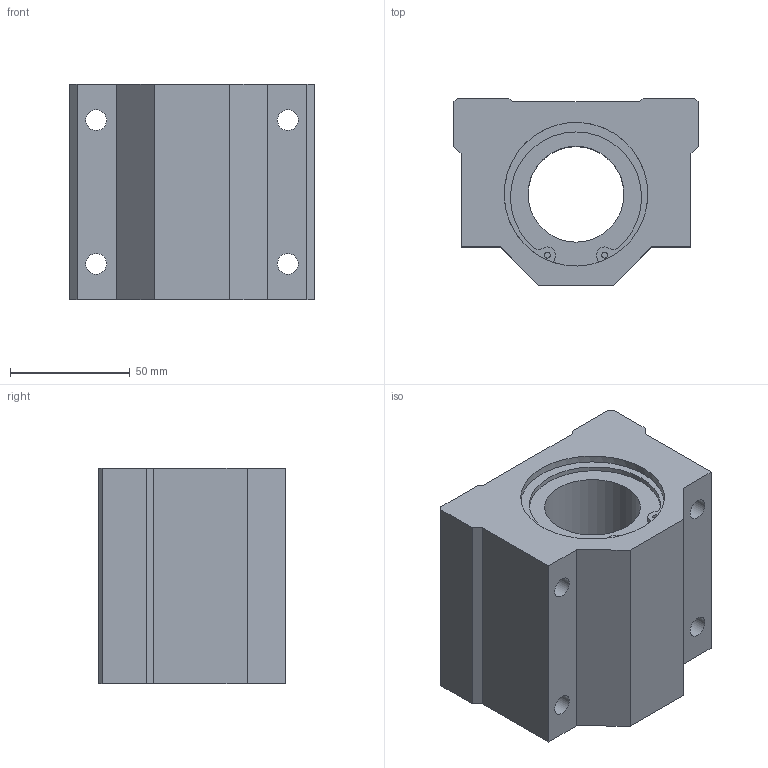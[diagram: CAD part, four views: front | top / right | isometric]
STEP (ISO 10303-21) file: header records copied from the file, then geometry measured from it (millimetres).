
FILE_DESCRIPTION(('STEP AP203'),'1');
FILE_NAME('//192.168.1.1/share/s-4 技術開発/s-4-4_CAD/s-4-4-3_見直し済み/008 修正済み/LC-A/LC-A_TOP/LC-40VAUU.step','2022-05-19T01:34:52',(' '),(' '),'Spatial InterOp 3D',' ',' ');
FILE_SCHEMA(('CONFIG_CONTROL_DESIGN'));
Length unit declared in the file: millimetre
Products named in the file (1): 1
Bounding box: 102 x 78 x 90 mm (x, y, z)
Volume: 466161.6 mm3; surface area: 59635.9 mm2
Topology: 1 solids, 1 shells, 61 faces, 159 edges, 106 vertices
Faces by surface type: plane 32, cylinder 29
Full cylindrical faces by diameter (mm): 2.5 x4, 8.7 x8, 40 x1, 60 x2
Entity records: 1824 total; most frequent: DIRECTION 318, CARTESIAN_POINT 300, ORIENTED_EDGE 276, EDGE_CURVE 138, AXIS2_PLACEMENT_3D 118, VERTEX_POINT 100, EDGE_LOOP 92, LINE 82
